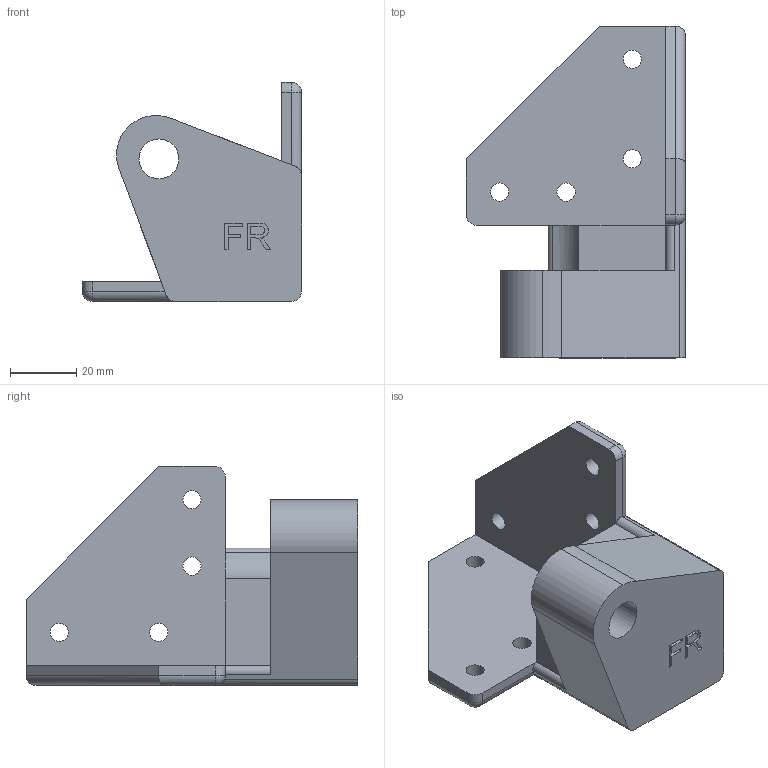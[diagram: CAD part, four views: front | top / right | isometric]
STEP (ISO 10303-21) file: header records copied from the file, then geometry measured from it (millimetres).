
FILE_DESCRIPTION(/* description */ (''),/* implementation_level */ '2;1');
FILE_NAME(/* name */ 'Foot FR v3.step',/* time_stamp */ '2023-03-23T06:33:42-06:00',/* author */ (''),/* organization */ (''),/* preprocessor_version */ 'ST-DEVELOPER v19.2',/* originating_system */ 'Autodesk Translation Framework v11.17.0.187',/* authorisation */ '');
FILE_SCHEMA (('AUTOMOTIVE_DESIGN { 1 0 10303 214 3 1 1 }'));
Length unit declared in the file: millimetre
Products named in the file (2): Foot FR; Foot FR_1
Assembly tree (1 placements, depth 2):
  Foot FR
    Foot FR_1
Bounding box: 66 x 100 x 66 mm (x, y, z)
Volume: 113794.4 mm3; surface area: 26396 mm2
Topology: 1 solids, 1 shells, 177 faces, 448 edges, 293 vertices
Faces by surface type: plane 77, bspline 61, cylinder 36, sphere 3
Full cylindrical faces by diameter (mm): 1.385 x1, 1.459 x1, 2.064 x2, 2.691 x1, 3.604 x1, 3.97 x1, 5.262 x1, 5.5 x8, 12 x1, 19 x1, 22.5 x1
Entity records: 7556 total; most frequent: CARTESIAN_POINT 3582, ORIENTED_EDGE 896, DIRECTION 634, EDGE_CURVE 448, VERTEX_POINT 293, LINE 256, VECTOR 256, EDGE_LOOP 215
